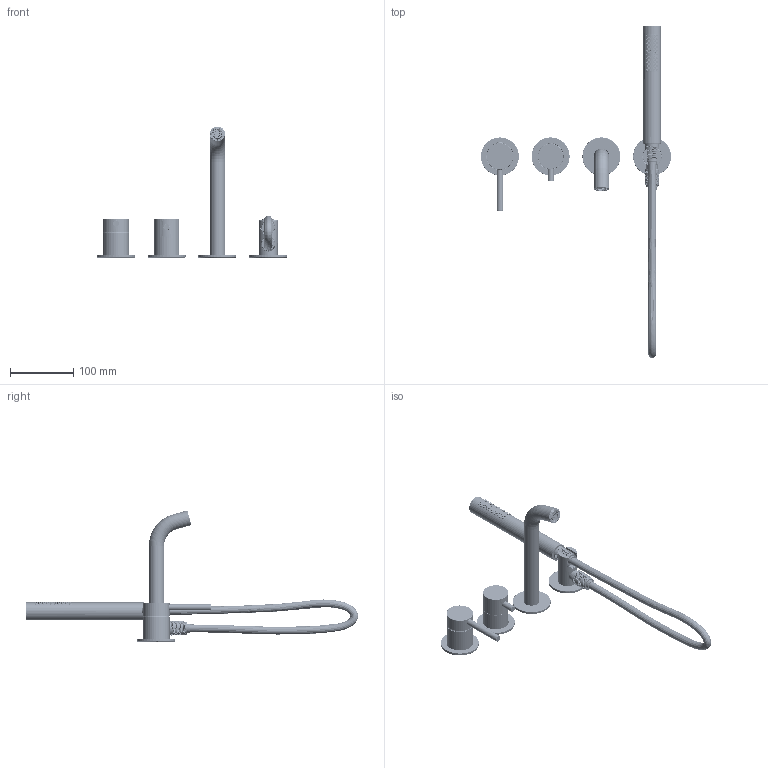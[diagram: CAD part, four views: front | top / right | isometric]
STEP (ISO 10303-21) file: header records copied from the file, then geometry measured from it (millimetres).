
FILE_DESCRIPTION((''),'2;1');
FILE_NAME('FY-889017_ASM','2025-03-31T11:14:10',('S'),(''),'CREO PARAMETRIC BY PTC INC, 2021023','CREO PARAMETRIC BY PTC INC, 2021023','');
FILE_SCHEMA(('AUTOMOTIVE_DESIGN { 1 0 10303 214 1 1 1 1 }'));
Length unit declared in the file: millimetre
Products named in the file (57): 4ZT-889017-BJJ_AF0_1; 5TT-001019-ACR_AF0_1; 3FX-001038-MMA-1_AF0_1; 3FX-001038-MAA-2_1; 3FX-001038-MAA_AF0_ASM_1_ASM; 3YG-001009-AJJ_1; 3ZG-010027-MCR_1; 5BS-139017-1-ACR_1; 5BS-139017-2-ACR_1; 3LS-001077-JAA_1; 3LS-001044-JAA_1; 3SN-001002-MCR_1; 139017000_ASM_1_ASM; 3CX-001019-BAA_AF0_1; 3SZ-001041-1_AF0_1; 3SZ-001041-2_AF0_1; 3SZ-001041-3_1; 3SZ-001041-GCR_AF0_ASM_1_ASM; 3WD-001054-MAA_1; 5MB-001106-KCR_AF0_1; 3JQ-001161-NAA_1; 869017_AF0_ASM_1_ASM; 5TT-001089-ACR_AF0_1; 4HZ-001038-AJJ_AF0_1; 4JT-001298-AJJ_1; 5HZ-001038-ACR_AF0_ASM_1_ASM; 5MB-001105-KCR_AF0_1; 5MB-001104-KCR_AF0_1; 5MB-001107-KCR_AF0_1; 3SJ-001141-MAA_1; 3SC-001023-JCR_1_1; 3SC-001023-JCR_1_2; 3SC-001023-JCR_1_ASM; 3PD-001028-JAA_AF0_1; 3SJ-001077-MAA_1; 5BS-739903-1-ACR_1; 3LS-001022-JAA_1; 3LS-001262-JAA_AF0_1; 3LS-001262-JAA_AF1_1; 3LS-001262-JAA_AF2_1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
Assembly tree (58 placements, depth 5):
  FY-889017_ASM
    FY-889017_ASM_1_ASM
      4ZT-889017-BJJ_AF0_1
      5TT-001019-ACR_AF0_1
      3FX-001038-MAA_AF0_ASM_1_ASM
        3FX-001038-MMA-1_AF0_1
        3FX-001038-MAA-2_1
      3YG-001009-AJJ_1
      3ZG-010027-MCR_1
      139017000_ASM_1_ASM
        5BS-139017-1-ACR_1
        5BS-139017-2-ACR_1
        3LS-001077-JAA_1
        3LS-001044-JAA_1
        3SN-001002-MCR_1
      3CX-001019-BAA_AF0_1
      869017_AF0_ASM_1_ASM
        3SZ-001041-GCR_AF0_ASM_1_ASM
          3SZ-001041-1_AF0_1
          3SZ-001041-2_AF0_1
          3SZ-001041-3_1
        3WD-001054-MAA_1
        5MB-001106-KCR_AF0_1
        3JQ-001161-NAA_1
      5TT-001089-ACR_AF0_1
      5HZ-001038-ACR_AF0_ASM_1_ASM
        4HZ-001038-AJJ_AF0_1
        4JT-001298-AJJ_1
      5MB-001105-KCR_AF0_1
      5MB-001104-KCR_AF0_1
      5MB-001107-KCR_AF0_1
      3SJ-001141-MAA_1
      3SC-001023-JCR_1_ASM
        3SC-001023-JCR_1_1
        3SC-001023-JCR_1_2
      3PD-001028-JAA_AF0_1
      3SJ-001077-MAA_1
      5BS-739903-1-ACR_1
      3LS-001022-JAA_1
      3LS-001262-JAA_AF0_1
      3LS-001262-JAA_AF1_1
      3LS-001262-JAA_AF2_1
      3LS-001262-JAA_AF3_1
      3RG-001049-JCR_AF0_ASM_1_ASM
        017PVC_AF00001_2
        PVC0001_1  x2
      4JT-001122-AJJ_AF0_1
      4JT-001271-AJJ_AF0_1
      4JT-001271-AJJ_AF1_1
      5BS-889017-2-ACR_1
      3SN-001002-MCR_1
      3JQ-001149-NAA_AF0_1
      3JQ-001149-NAA_AF1_1
      3JQ-001602-NAA_1
      3JQ-001117-NAA_AF0_1
      3JQ-001227-NAA_1
      3JQ-001237-NAA_1
      3JQ-001195-NAA_1
Bounding box: 300 x 523.34 x 206.54 mm (x, y, z)
Volume: 260483.2 mm3; surface area: 229800.5 mm2
Topology: 40 solids, 40 shells, 11666 faces, 30967 edges, 19590 vertices
Faces by surface type: plane 6714, bspline 2527, cylinder 1245, cone 975, torus 150, sphere 52, extrusion 3
Entity records: 486619 total; most frequent: CARTESIAN_POINT 175139, ORIENTED_EDGE 52908, DIRECTION 31410, EDGE_CURVE 26454, PRESENTATION_STYLE_ASSIGNMENT 23152, STYLED_ITEM 18224, CURVE_STYLE 18081, VERTEX_POINT 17111
